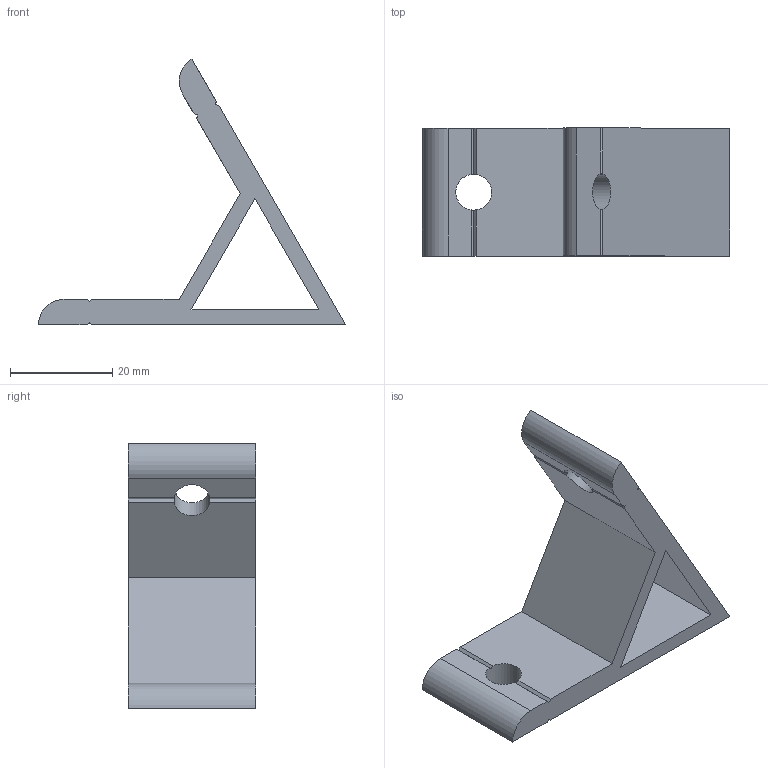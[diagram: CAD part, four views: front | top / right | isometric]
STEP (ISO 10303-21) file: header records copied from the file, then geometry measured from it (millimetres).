
FILE_DESCRIPTION(/* description */ ('Unknown'),/* implementation_level */ '2;1');
FILE_NAME(/* name */ 'AV2560',/* time_stamp */ '2026-09-17T13:26:34+08:00',/* author */ ('Unknown'),/* organization */ ('Unknown'),/* preprocessor_version */ 'ST-DEVELOPER v16.7',/* originating_system */ 'DEX',/* authorisation */ $);
FILE_SCHEMA (('AUTOMOTIVE_DESIGN {1 0 10303 214 3 1 1}'));
Length unit declared in the file: millimetre
Products named in the file (1): AV2560
Bounding box: 60 x 25 x 51.96 mm (x, y, z)
Volume: 12635.8 mm3; surface area: 8123.5 mm2
Topology: 1 solids, 1 shells, 34 faces, 104 edges, 68 vertices
Faces by surface type: plane 30, cylinder 4
Full cylindrical faces by diameter (mm): 7 x2
Entity records: 1196 total; most frequent: CARTESIAN_POINT 205, ORIENTED_EDGE 204, DIRECTION 200, EDGE_CURVE 102, LINE 74, VECTOR 74, VERTEX_POINT 68, AXIS2_PLACEMENT_3D 63
